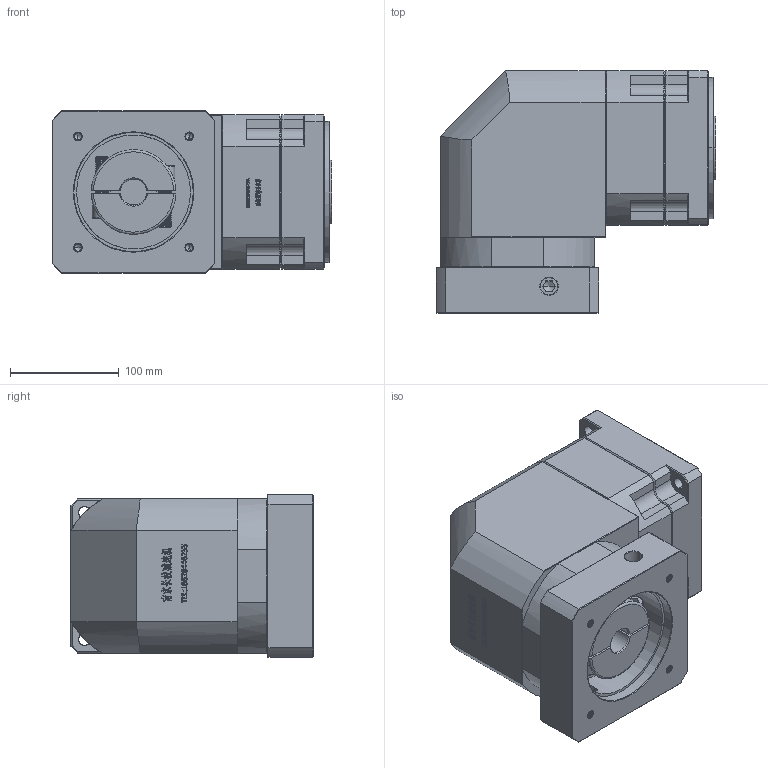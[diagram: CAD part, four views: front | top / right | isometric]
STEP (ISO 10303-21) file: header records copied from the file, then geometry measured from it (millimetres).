
FILE_DESCRIPTION (( 'STEP AP214' ), '1' );
FILE_NAME ('ZBR142A-K35-L1-24-110-145-M8.step', '2023-03-18T09:25:09', ( '' ), ( '' ), 'SwSTEP 2.0', 'SolidWorks 2016', '' );
FILE_SCHEMA (( 'AUTOMOTIVE_DESIGN' ));
Length unit declared in the file: millimetre
Products named in the file (1): ZBR142A-K35-L1-24-110-145-M8
Bounding box: 257.7 x 223 x 150 mm (x, y, z)
Volume: 5321397 mm3; surface area: 386177.3 mm2
Topology: 6 solids, 6 shells, 2881 faces, 7676 edges, 4943 vertices
Faces by surface type: plane 1533, bspline 588, cylinder 414, cone 326, torus 20
Entity records: 158620 total; most frequent: CARTESIAN_POINT 59858, ORIENTED_EDGE 15296, DIRECTION 11541, EDGE_CURVE 7648, VECTOR 5187, LINE 5187, VERTEX_POINT 4943, AXIS2_PLACEMENT_3D 3177
